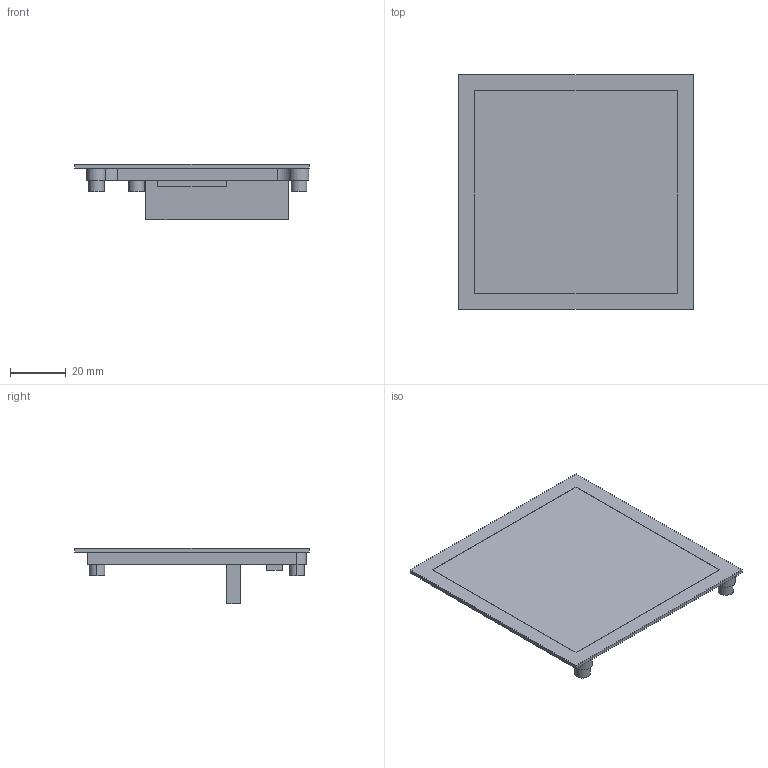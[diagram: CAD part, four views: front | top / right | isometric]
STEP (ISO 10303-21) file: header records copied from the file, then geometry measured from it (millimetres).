
FILE_DESCRIPTION((''),'2;1');
FILE_NAME('08','2021-08-09T',('Administrator'),(''),'PRO/ENGINEER BY PARAMETRIC TECHNOLOGY CORPORATION, 2002350','PRO/ENGINEER BY PARAMETRIC TECHNOLOGY CORPORATION, 2002350','');
FILE_SCHEMA(('CONFIG_CONTROL_DESIGN'));
Length unit declared in the file: millimetre
Products named in the file (1): 08
Bounding box: 84 x 84 x 19.7 mm (x, y, z)
Volume: 36574.7 mm3; surface area: 20134.5 mm2
Topology: 1 solids, 1 shells, 257 faces, 609 edges, 406 vertices
Faces by surface type: plane 234, cylinder 23
Entity records: 7327 total; most frequent: CARTESIAN_POINT 1272, ORIENTED_EDGE 1218, DIRECTION 1169, EDGE_CURVE 609, VECTOR 563, LINE 563, VERTEX_POINT 406, EDGE_LOOP 309
